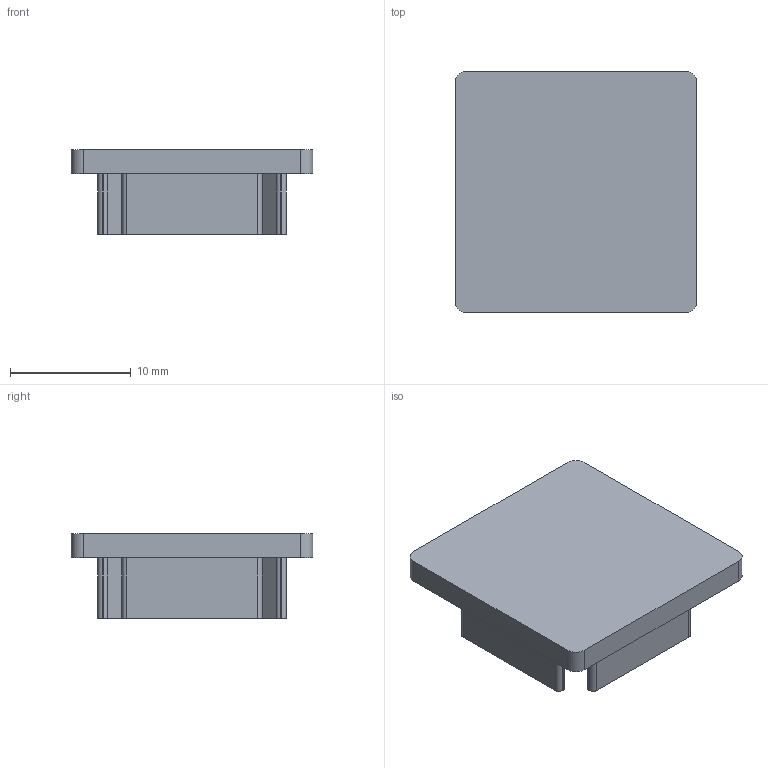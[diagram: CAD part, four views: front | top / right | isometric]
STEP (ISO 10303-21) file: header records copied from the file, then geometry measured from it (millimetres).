
FILE_DESCRIPTION(/* description */ ('','CAx-IF Rec.Pracs.---Representation and Presentation of Product Manufacturing Information (PMI)---4.0---2014-10-13'),/* implementation_level */ '2;1');
FILE_NAME(/* name */ 'tappo_01.stp',/* time_stamp */ '2026-02-28T20:13:26+01:00',/* author */ ('R5800u'),/* organization */ (''),/* preprocessor_version */ 'ST-DEVELOPER v20',/* originating_system */ 'Autodesk Inventor 2025',/* authorisation */ '');
FILE_SCHEMA (('AP242_MANAGED_MODEL_BASED_3D_ENGINEERING_MIM_LF { 1 0 10303 442 1 1 4 }'));
Length unit declared in the file: millimetre
Products named in the file (1): tappo_01
Bounding box: 20 x 20 x 7 mm (x, y, z)
Volume: 1521.3 mm3; surface area: 1602.1 mm2
Topology: 2 solids, 2 shells, 63 faces, 168 edges, 112 vertices
Faces by surface type: plane 35, cylinder 28
Entity records: 2177 total; most frequent: CARTESIAN_POINT 389, DIRECTION 378, ORIENTED_EDGE 336, EDGE_CURVE 168, AXIS2_PLACEMENT_3D 133, LINE 112, VECTOR 112, VERTEX_POINT 112
